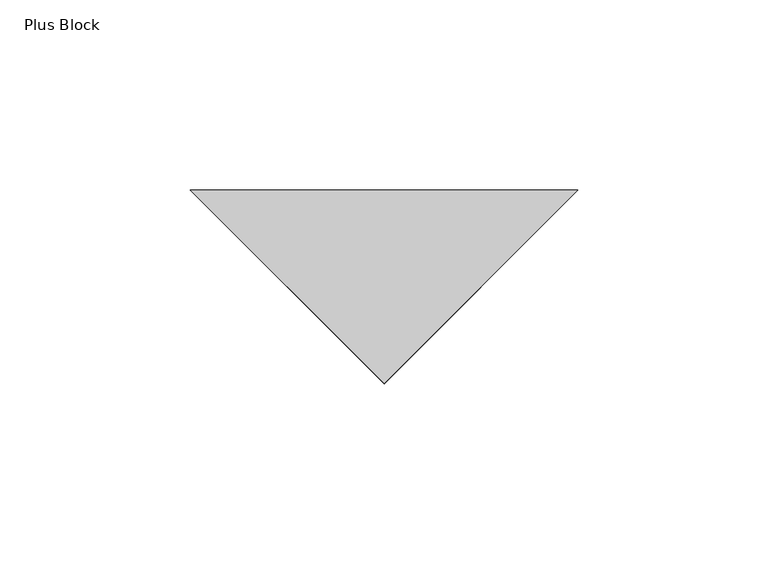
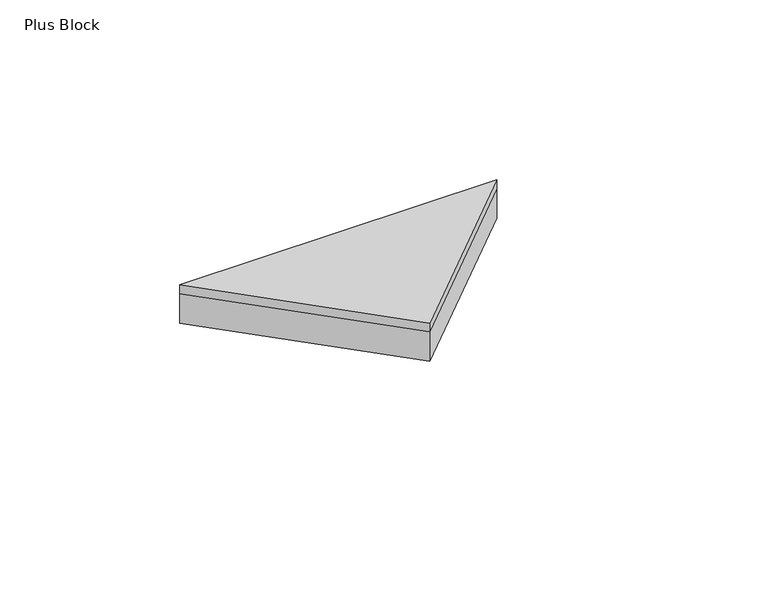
"""IFC4 building model written with IfcOpenShell, lengths in millimetres: proxy geometry, FilzFelt_Plus_Block : Plus Block."""

from ifc_helpers import new_model, si_unit, frame, origin, origin_with_axes, place, context, project, spatial, polyline, outline, extrude, source, transform, mapped, element, save


def plus_block_438e83cd(model_context):
    return source(origin(), model_context, "Body", "SweptSolid", [
        extrude(outline(polyline([(50.8333333, 50.8333333), (152.5, 50.8333333), (101.6666667, 0.0), (50.8333333, 50.8333333)])), frame((0.0, 0.0, 10.0210937), z_axis=(0.0, 0.0, 1.0), x_axis=(1.0, 0.0, 0.0)), (0.0, 0.0, 1.0), 2.9765625),
        extrude(outline(polyline([(50.8333333, 50.8333333), (152.5, 50.8333333), (101.6666667, 0.0), (50.8333333, 50.8333333)])), origin_with_axes(), (0.0, 0.0, 1.0), 10.0210938),
    ])


if __name__ == "__main__":
    model = new_model("IFC4")
    model_context = context("Model", 3, world=origin())
    ifc_project = project(units=[si_unit("LENGTHUNIT", "METRE", prefix="MILLI")], contexts=[model_context])
    site = spatial("IfcSite", under=ifc_project)
    building = spatial("IfcBuilding", under=site)
    placement = place(None, origin())
    plus_block_shape = plus_block_438e83cd(model_context)
    element("IfcBuildingElementProxy", 1, Name="FilzFelt_Plus_Block : Plus Block", ObjectType="FilzFelt_Plus_Block : Plus Block", at=placement, inside=building, context=model_context, shape_type="MappedRepresentation", body=[
        mapped(plus_block_shape, transform((0.0, 0.0, 0.0), x_axis=(1.0, 0.0, 0.0), y_axis=(0.0, 1.0, 0.0), z_axis=(0.0, 0.0, 1.0))),
    ])
    save(model, "model.ifc")
